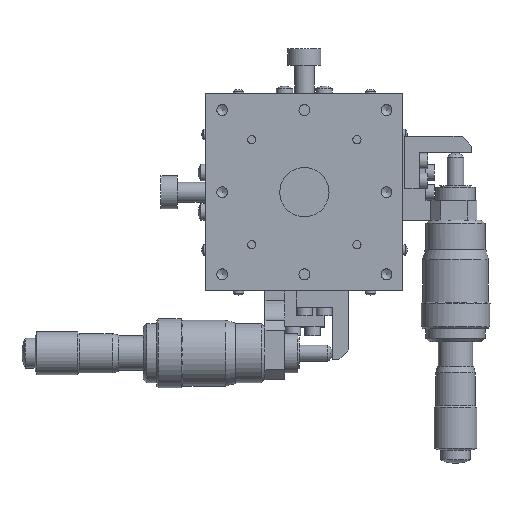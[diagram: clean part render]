
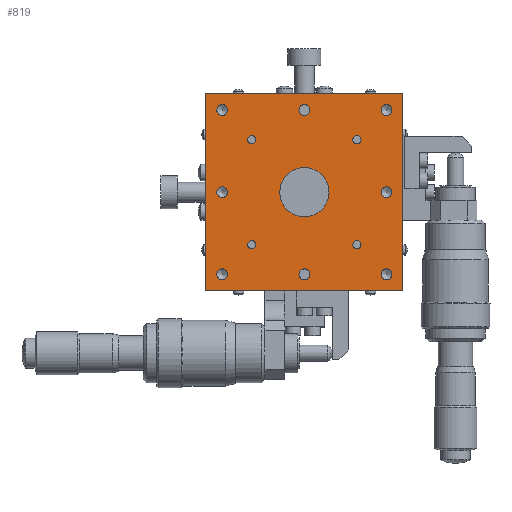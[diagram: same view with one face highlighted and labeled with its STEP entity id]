
A CAD part, top view. The second image highlights one B-rep face of the part: STEP entity #819.
In plain terms, the highlighted planar face has unit normal (0, 0, 1).
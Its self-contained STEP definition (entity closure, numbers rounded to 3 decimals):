
#819 = ADVANCED_FACE( '', ( #1790, #1791, #1792, #1793, #1794, #1795, #1796, #1797, #1798, #1799, #1800, #1801, #1802, #1803 ), #1804, .T. );
#1790 = FACE_BOUND( '', #2817, .T. );
#1791 = FACE_BOUND( '', #2818, .T. );
#1792 = FACE_BOUND( '', #2819, .T. );
#1793 = FACE_BOUND( '', #2820, .T. );
#1794 = FACE_BOUND( '', #2821, .T. );
#1795 = FACE_BOUND( '', #2822, .T. );
#1796 = FACE_BOUND( '', #2823, .T. );
#1797 = FACE_BOUND( '', #2824, .T. );
#1798 = FACE_BOUND( '', #2825, .T. );
#1799 = FACE_BOUND( '', #2826, .T. );
#1800 = FACE_BOUND( '', #2827, .T. );
#1801 = FACE_BOUND( '', #2828, .T. );
#1802 = FACE_OUTER_BOUND( '', #2829, .T. );
#1803 = FACE_BOUND( '', #2830, .T. );
#1804 = PLANE( '', #2831 );
#2817 = EDGE_LOOP( '', ( #4796 ) );
#2818 = EDGE_LOOP( '', ( #4797 ) );
#2819 = EDGE_LOOP( '', ( #4798 ) );
#2820 = EDGE_LOOP( '', ( #4799 ) );
#2821 = EDGE_LOOP( '', ( #4800 ) );
#2822 = EDGE_LOOP( '', ( #4801 ) );
#2823 = EDGE_LOOP( '', ( #4802 ) );
#2824 = EDGE_LOOP( '', ( #4803 ) );
#2825 = EDGE_LOOP( '', ( #4804 ) );
#2826 = EDGE_LOOP( '', ( #4805 ) );
#2827 = EDGE_LOOP( '', ( #4806 ) );
#2828 = EDGE_LOOP( '', ( #4807 ) );
#2829 = EDGE_LOOP( '', ( #4808, #4809, #4810, #4811 ) );
#2830 = EDGE_LOOP( '', ( #4812 ) );
#2831 = AXIS2_PLACEMENT_3D( '', #4813, #4814, #4815 );
#4796 = ORIENTED_EDGE( '', *, *, #5639, .T. );
#4797 = ORIENTED_EDGE( '', *, *, #5708, .T. );
#4798 = ORIENTED_EDGE( '', *, *, #5199, .T. );
#4799 = ORIENTED_EDGE( '', *, *, #5380, .T. );
#4800 = ORIENTED_EDGE( '', *, *, #5628, .T. );
#4801 = ORIENTED_EDGE( '', *, *, #5163, .T. );
#4802 = ORIENTED_EDGE( '', *, *, #5645, .T. );
#4803 = ORIENTED_EDGE( '', *, *, #5717, .T. );
#4804 = ORIENTED_EDGE( '', *, *, #5116, .T. );
#4805 = ORIENTED_EDGE( '', *, *, #5767, .T. );
#4806 = ORIENTED_EDGE( '', *, *, #5532, .T. );
#4807 = ORIENTED_EDGE( '', *, *, #5730, .T. );
#4808 = ORIENTED_EDGE( '', *, *, #5778, .T. );
#4809 = ORIENTED_EDGE( '', *, *, #5070, .T. );
#4810 = ORIENTED_EDGE( '', *, *, #5293, .T. );
#4811 = ORIENTED_EDGE( '', *, *, #5779, .T. );
#4812 = ORIENTED_EDGE( '', *, *, #5749, .T. );
#4813 = CARTESIAN_POINT( '', ( 0., 0., 22. ) );
#4814 = DIRECTION( '', ( 0., 0., 1. ) );
#4815 = DIRECTION( '', ( 1., 0., 0. ) );
#5070 = EDGE_CURVE( '', #5875, #5873, #5876, .T. );
#5116 = EDGE_CURVE( '', #5958, #5958, #5959, .T. );
#5163 = EDGE_CURVE( '', #6035, #6035, #6036, .T. );
#5199 = EDGE_CURVE( '', #6093, #6093, #6094, .T. );
#5293 = EDGE_CURVE( '', #5873, #6239, #6241, .T. );
#5380 = EDGE_CURVE( '', #6384, #6384, #6385, .T. );
#5532 = EDGE_CURVE( '', #6610, #6610, #6611, .T. );
#5628 = EDGE_CURVE( '', #6743, #6743, #6744, .T. );
#5639 = EDGE_CURVE( '', #6759, #6759, #6760, .T. );
#5645 = EDGE_CURVE( '', #6768, #6768, #6769, .T. );
#5708 = EDGE_CURVE( '', #6844, #6844, #6845, .T. );
#5717 = EDGE_CURVE( '', #6855, #6855, #6856, .T. );
#5730 = EDGE_CURVE( '', #6873, #6873, #6874, .T. );
#5749 = EDGE_CURVE( '', #6898, #6898, #6899, .T. );
#5767 = EDGE_CURVE( '', #6920, #6920, #6921, .T. );
#5778 = EDGE_CURVE( '', #6932, #5875, #6933, .T. );
#5779 = EDGE_CURVE( '', #6239, #6932, #6934, .T. );
#5873 = VERTEX_POINT( '', #7042 );
#5875 = VERTEX_POINT( '', #7045 );
#5876 = LINE( '', #7046, #7047 );
#5958 = VERTEX_POINT( '', #7157 );
#5959 = CIRCLE( '', #7158, 1.65 );
#6035 = VERTEX_POINT( '', #7249 );
#6036 = CIRCLE( '', #7250, 1.65 );
#6093 = VERTEX_POINT( '', #7330 );
#6094 = CIRCLE( '', #7331, 1.25 );
#6239 = VERTEX_POINT( '', #7511 );
#6241 = LINE( '', #7514, #7515 );
#6384 = VERTEX_POINT( '', #7704 );
#6385 = CIRCLE( '', #7705, 1.25 );
#6610 = VERTEX_POINT( '', #7988 );
#6611 = CIRCLE( '', #7989, 1.65 );
#6743 = VERTEX_POINT( '', #8159 );
#6744 = CIRCLE( '', #8160, 1.65 );
#6759 = VERTEX_POINT( '', #8178 );
#6760 = CIRCLE( '', #8179, 1.25 );
#6768 = VERTEX_POINT( '', #8187 );
#6769 = CIRCLE( '', #8188, 1.65 );
#6844 = VERTEX_POINT( '', #8282 );
#6845 = CIRCLE( '', #8283, 1.25 );
#6855 = VERTEX_POINT( '', #8296 );
#6856 = CIRCLE( '', #8297, 1.65 );
#6873 = VERTEX_POINT( '', #8314 );
#6874 = CIRCLE( '', #8315, 1.65 );
#6898 = VERTEX_POINT( '', #8345 );
#6899 = CIRCLE( '', #8346, 7.5 );
#6920 = VERTEX_POINT( '', #8372 );
#6921 = CIRCLE( '', #8373, 1.65 );
#6932 = VERTEX_POINT( '', #8386 );
#6933 = LINE( '', #8387, #8388 );
#6934 = LINE( '', #8389, #8390 );
#7042 = CARTESIAN_POINT( '', ( -30., -30., 22. ) );
#7045 = CARTESIAN_POINT( '', ( -30., 30., 22. ) );
#7046 = CARTESIAN_POINT( '', ( -30., 0., 22. ) );
#7047 = VECTOR( '', #8478, 1000. );
#7157 = CARTESIAN_POINT( '', ( 25., -1.65, 22. ) );
#7158 = AXIS2_PLACEMENT_3D( '', #8534, #8535, #8536 );
#7249 = CARTESIAN_POINT( '', ( -25., 23.35, 22. ) );
#7250 = AXIS2_PLACEMENT_3D( '', #8603, #8604, #8605 );
#7330 = CARTESIAN_POINT( '', ( 16., -17.25, 22. ) );
#7331 = AXIS2_PLACEMENT_3D( '', #8638, #8639, #8640 );
#7511 = CARTESIAN_POINT( '', ( 30., -30., 22. ) );
#7514 = CARTESIAN_POINT( '', ( 0., -30., 22. ) );
#7515 = VECTOR( '', #8755, 1000. );
#7704 = CARTESIAN_POINT( '', ( -16., -17.25, 22. ) );
#7705 = AXIS2_PLACEMENT_3D( '', #8868, #8869, #8870 );
#7988 = CARTESIAN_POINT( '', ( 0., -26.65, 22. ) );
#7989 = AXIS2_PLACEMENT_3D( '', #9058, #9059, #9060 );
#8159 = CARTESIAN_POINT( '', ( -25., -1.65, 22. ) );
#8160 = AXIS2_PLACEMENT_3D( '', #9174, #9175, #9176 );
#8178 = CARTESIAN_POINT( '', ( -16., 14.75, 22. ) );
#8179 = AXIS2_PLACEMENT_3D( '', #9192, #9193, #9194 );
#8187 = CARTESIAN_POINT( '', ( 0., 23.35, 22. ) );
#8188 = AXIS2_PLACEMENT_3D( '', #9201, #9202, #9203 );
#8282 = CARTESIAN_POINT( '', ( 16., 14.75, 22. ) );
#8283 = AXIS2_PLACEMENT_3D( '', #9253, #9254, #9255 );
#8296 = CARTESIAN_POINT( '', ( 25., 23.35, 22. ) );
#8297 = AXIS2_PLACEMENT_3D( '', #9262, #9263, #9264 );
#8314 = CARTESIAN_POINT( '', ( -25., -26.65, 22. ) );
#8315 = AXIS2_PLACEMENT_3D( '', #9277, #9278, #9279 );
#8345 = CARTESIAN_POINT( '', ( -7.5, 0., 22. ) );
#8346 = AXIS2_PLACEMENT_3D( '', #9295, #9296, #9297 );
#8372 = CARTESIAN_POINT( '', ( 25., -26.65, 22. ) );
#8373 = AXIS2_PLACEMENT_3D( '', #9309, #9310, #9311 );
#8386 = CARTESIAN_POINT( '', ( 30., 30., 22. ) );
#8387 = CARTESIAN_POINT( '', ( 0., 30., 22. ) );
#8388 = VECTOR( '', #9314, 1000. );
#8389 = CARTESIAN_POINT( '', ( 30., 0., 22. ) );
#8390 = VECTOR( '', #9315, 1000. );
#8478 = DIRECTION( '', ( 0., -1., 0. ) );
#8534 = CARTESIAN_POINT( '', ( 25., 0., 22. ) );
#8535 = DIRECTION( '', ( 0., 0., -1. ) );
#8536 = DIRECTION( '', ( 0., -1., 0. ) );
#8603 = CARTESIAN_POINT( '', ( -25., 25., 22. ) );
#8604 = DIRECTION( '', ( 0., 0., -1. ) );
#8605 = DIRECTION( '', ( 0., -1., 0. ) );
#8638 = CARTESIAN_POINT( '', ( 16., -16., 22. ) );
#8639 = DIRECTION( '', ( 0., 0., -1. ) );
#8640 = DIRECTION( '', ( 0., -1., 0. ) );
#8755 = DIRECTION( '', ( 1., 0., 0. ) );
#8868 = CARTESIAN_POINT( '', ( -16., -16., 22. ) );
#8869 = DIRECTION( '', ( 0., 0., -1. ) );
#8870 = DIRECTION( '', ( 0., -1., 0. ) );
#9058 = CARTESIAN_POINT( '', ( 0., -25., 22. ) );
#9059 = DIRECTION( '', ( 0., 0., -1. ) );
#9060 = DIRECTION( '', ( 0., -1., 0. ) );
#9174 = CARTESIAN_POINT( '', ( -25., 0., 22. ) );
#9175 = DIRECTION( '', ( 0., 0., -1. ) );
#9176 = DIRECTION( '', ( 0., -1., 0. ) );
#9192 = CARTESIAN_POINT( '', ( -16., 16., 22. ) );
#9193 = DIRECTION( '', ( 0., 0., -1. ) );
#9194 = DIRECTION( '', ( 0., -1., 0. ) );
#9201 = CARTESIAN_POINT( '', ( 0., 25., 22. ) );
#9202 = DIRECTION( '', ( 0., 0., -1. ) );
#9203 = DIRECTION( '', ( 0., -1., 0. ) );
#9253 = CARTESIAN_POINT( '', ( 16., 16., 22. ) );
#9254 = DIRECTION( '', ( 0., 0., -1. ) );
#9255 = DIRECTION( '', ( 0., -1., 0. ) );
#9262 = CARTESIAN_POINT( '', ( 25., 25., 22. ) );
#9263 = DIRECTION( '', ( 0., 0., -1. ) );
#9264 = DIRECTION( '', ( 0., -1., 0. ) );
#9277 = CARTESIAN_POINT( '', ( -25., -25., 22. ) );
#9278 = DIRECTION( '', ( 0., 0., -1. ) );
#9279 = DIRECTION( '', ( 0., -1., 0. ) );
#9295 = CARTESIAN_POINT( '', ( 0., 0., 22. ) );
#9296 = DIRECTION( '', ( 0., 0., -1. ) );
#9297 = DIRECTION( '', ( -1., 0., 0. ) );
#9309 = CARTESIAN_POINT( '', ( 25., -25., 22. ) );
#9310 = DIRECTION( '', ( 0., 0., -1. ) );
#9311 = DIRECTION( '', ( 0., -1., 0. ) );
#9314 = DIRECTION( '', ( -1., 0., 0. ) );
#9315 = DIRECTION( '', ( 0., 1., 0. ) );
